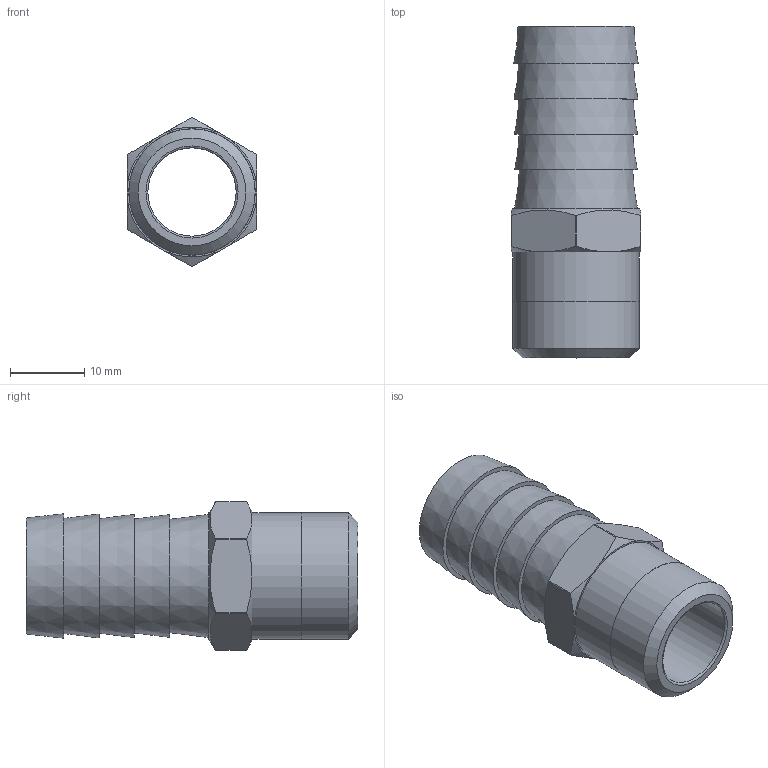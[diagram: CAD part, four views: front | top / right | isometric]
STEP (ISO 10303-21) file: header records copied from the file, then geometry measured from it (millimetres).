
FILE_DESCRIPTION(/* description */ (''),/* implementation_level */ '2;1');
FILE_NAME(/* name */ 'C:/Users/drich/Desktop/MB10-6 v1.step',/* time_stamp */ '2020-02-02T14:53:19-06:00',/* author */ (''),/* organization */ (''),/* preprocessor_version */ 'ST-DEVELOPER v18',/* originating_system */ 'Autodesk Translation Framework v8.12.0.6',/* authorisation */ '');
FILE_SCHEMA (('AUTOMOTIVE_DESIGN { 1 0 10303 214 3 1 1 }'));
Length unit declared in the file: inch
Products named in the file (2): MB10-6; 10 BARB ONLY
Assembly tree (1 placements, depth 2):
  MB10-6
    10 BARB ONLY
Bounding box: 17.45 x 44.7 x 20.07 mm (x, y, z)
Volume: 4353.3 mm3; surface area: 4603.2 mm2
Topology: 2 solids, 2 shells, 41 faces, 110 edges, 78 vertices
Faces by surface type: cone 15, plane 15, cylinder 10, torus 1
Full cylindrical faces by diameter (mm): 11.887 x1, 12.7 x1, 17.018 x1, 17.069 x1
Entity records: 1390 total; most frequent: CARTESIAN_POINT 268, DIRECTION 241, ORIENTED_EDGE 220, EDGE_CURVE 110, AXIS2_PLACEMENT_3D 105, VERTEX_POINT 78, CIRCLE 61, EDGE_LOOP 50
